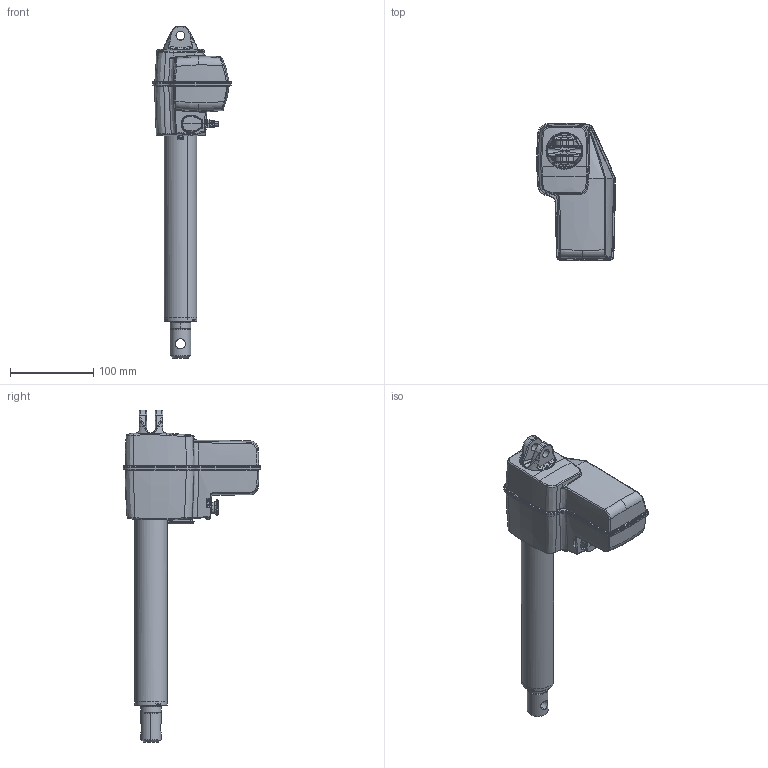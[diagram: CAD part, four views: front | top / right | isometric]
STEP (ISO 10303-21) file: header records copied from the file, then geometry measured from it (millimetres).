
FILE_DESCRIPTION((''),'2;1');
FILE_NAME('0404004','2014-12-03T',('TI'),(''),'PRO/ENGINEER BY PARAMETRIC TECHNOLOGY CORPORATION, 2014000','PRO/ENGINEER BY PARAMETRIC TECHNOLOGY CORPORATION, 2014000','');
FILE_SCHEMA(('CONFIG_CONTROL_DESIGN'));
Products named in the file (1): 0404004
Bounding box: 94.31 x 165.47 x 398.5 mm (x, y, z)
Volume: 1201180.3 mm3; surface area: 100761.2 mm2
Topology: 1 solids, 1 shells, 1455 faces, 3758 edges, 2295 vertices
Faces by surface type: cylinder 400, bspline 334, torus 270, plane 250, cone 98, extrusion 74, sphere 26, revolution 3
Entity records: 62457 total; most frequent: CARTESIAN_POINT 30180, ORIENTED_EDGE 7462, DIRECTION 5811, EDGE_CURVE 3731, AXIS2_PLACEMENT_3D 2343, VERTEX_POINT 2295, EDGE_LOOP 1500, B_SPLINE_CURVE_WITH_KNOTS 1461
